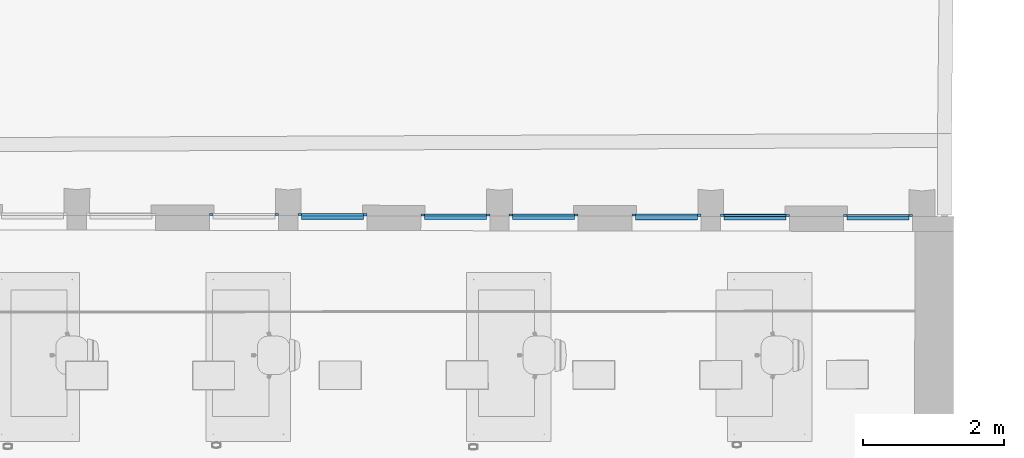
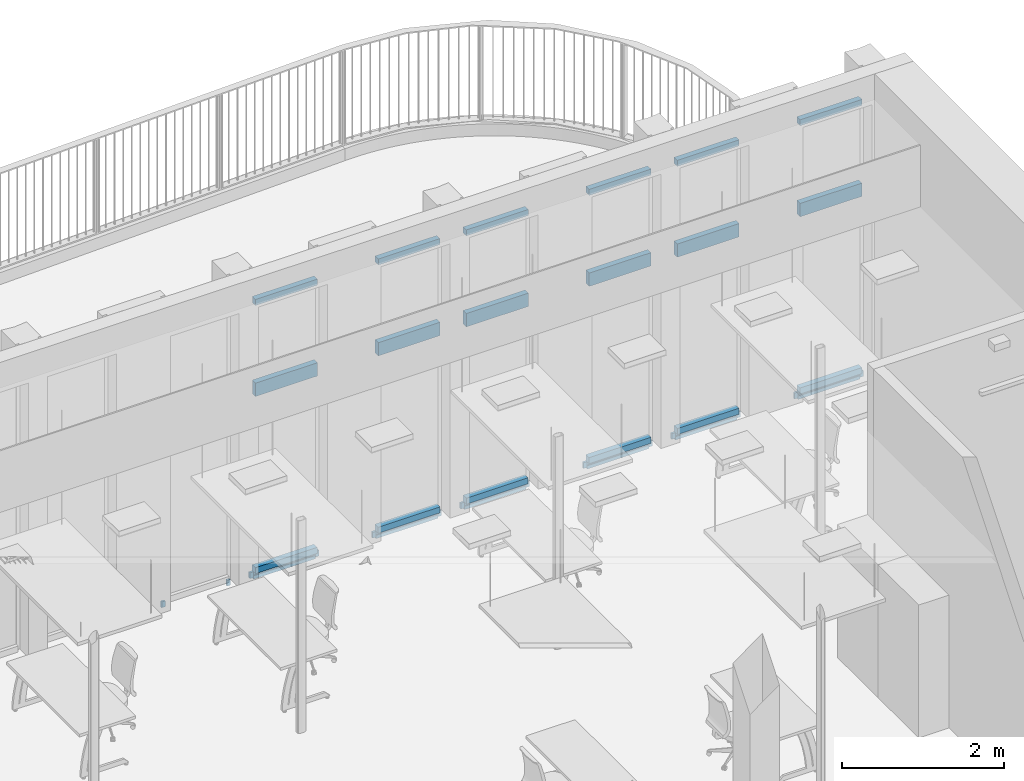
# One storey, part 20 of 128: 44 members, 13 elements without a shape of their own.
"""IFC2X3 building model written with IfcOpenShell, lengths in metres."""

from ifc_helpers import new_model, entity, si_unit, converted_unit, derived_unit, direction, frame, origin, origin_2d_with_axis, place, context, subcontext, project, spatial, rectangle, extrude, source, transform, mapped, material, type_object, type_shapes, element, aggregate, save


model = new_model("IFC2X3")

# Units and contexts
model_context = context("Model", 3, precision=1e-05, world=origin(), true_north=direction((6.123031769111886e-17, 1.0)))
body_context = subcontext(model_context, "Body", "Model", "MODEL_VIEW")
ifc_project = project(units=[si_unit("LENGTHUNIT", "METRE"), si_unit("AREAUNIT", "SQUARE_METRE"), converted_unit("PLANEANGLEUNIT", "DEGREE", entity("IfcPlaneAngleMeasure", 0.017453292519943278), si_unit("PLANEANGLEUNIT", "RADIAN"), dimensions=[0, 0, 0, 0, 0, 0, 0]), derived_unit("THERMALTRANSMITTANCEUNIT", [(si_unit("MASSUNIT", "GRAM", prefix="KILO"), 1), (si_unit("THERMODYNAMICTEMPERATUREUNIT", "KELVIN"), -1), (si_unit("TIMEUNIT", "SECOND"), -3)])], contexts=[model_context])

# Site, building, storey
site_placement = place(None, origin())
site = spatial("IfcSite", under=ifc_project, at=site_placement, Name="Default", CompositionType="ELEMENT")
building_placement = place(site_placement, origin())
building = spatial("IfcBuilding", under=site, at=building_placement, CompositionType="ELEMENT")
storey_placement = place(building_placement, origin())
storey = spatial("IfcBuildingStorey", under=building, at=storey_placement, Name="00_RDC CAF", CompositionType="ELEMENT", Elevation=2.4982504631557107e-13)

# Curtain wall, member
curtain_wall_type_1 = type_object("IfcCurtainWallType", Name="Mur-rideau:FRi.Ext.30mm RDC", PredefinedType="NOTDEFINED")
curtain_wall_1_placement = place(storey_placement, origin())
curtain_wall_1 = element("IfcCurtainWall", 1, at=curtain_wall_1_placement, inside=storey, type_object=curtain_wall_type_1, Name="Mur-rideau:FRi.Ext.30mm RDC", ObjectType="Mur-rideau:FRi.Ext.30mm RDC")
ifc_material = material(Name="ARC - M.Ex - Blanc")
member_type_1 = type_object("IfcMemberType", Name="Meneau rectangulaire:F.Ri.M_Ext_Rectangulaire_200x80mm", PredefinedType="MULLION", material=ifc_material)
shared_shape_1 = source(origin(), body_context, "Body", "SweptSolid", [
    extrude(rectangle(XDim=0.2, YDim=0.07999999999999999, at=origin_2d_with_axis()), frame((0.0, 0.025, -0.8799999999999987), z_axis=(0.0, 0.0, 1.0), x_axis=(-1.0, 0.0, 0.0)), (0.0, 0.0, 1.0), 0.8799999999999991),
])
type_shapes(member_type_1, [shared_shape_1])
member_1_placement = place(curtain_wall_1_placement, frame((40.815972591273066, 144.12998275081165, 2.7689999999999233), z_axis=(1.0, 0.0, 0.0), x_axis=(0.0, 0.0, 1.0)))
member_1 = element("IfcMember", 2, at=member_1_placement, type_object=member_type_1, material=ifc_material, Name="Meneau rectangulaire:F.Ri.M_Ext_Rectangulaire_200x80mm", ObjectType="Meneau rectangulaire:F.Ri.M_Ext_Rectangulaire_200x80mm", context=body_context, shape_type="MappedRepresentation", body=[
    mapped(shared_shape_1, transform((0.0, 0.0, 0.0), scale=1.0)),
])

curtain_wall_2_placement = place(storey_placement, origin())
curtain_wall_2 = element("IfcCurtainWall", 3, at=curtain_wall_2_placement, inside=storey, type_object=curtain_wall_type_1, Name="Mur-rideau:FRi.Ext.30mm RDC", ObjectType="Mur-rideau:FRi.Ext.30mm RDC")
member_2_placement = place(curtain_wall_2_placement, frame((42.56234455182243, 144.12723624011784, 2.7689999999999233), z_axis=(1.0, 0.0, 0.0), x_axis=(0.0, 0.0, 1.0)))
member_2 = element("IfcMember", 4, at=member_2_placement, type_object=member_type_1, material=ifc_material, Name="Meneau rectangulaire:F.Ri.M_Ext_Rectangulaire_200x80mm", ObjectType="Meneau rectangulaire:F.Ri.M_Ext_Rectangulaire_200x80mm", context=body_context, shape_type="MappedRepresentation", body=[
    mapped(shared_shape_1, transform((0.0, 0.0, 0.0), scale=1.0)),
])

curtain_wall_3_placement = place(storey_placement, origin())
curtain_wall_3 = element("IfcCurtainWall", 5, at=curtain_wall_3_placement, inside=storey, type_object=curtain_wall_type_1, Name="Mur-rideau:FRi.Ext.30mm RDC", ObjectType="Mur-rideau:FRi.Ext.30mm RDC")
member_3_placement = place(curtain_wall_3_placement, frame((43.815965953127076, 144.12526467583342, 2.7689999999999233), z_axis=(1.0, 0.0, 0.0), x_axis=(0.0, 0.0, 1.0)))
member_3 = element("IfcMember", 6, at=member_3_placement, type_object=member_type_1, material=ifc_material, Name="Meneau rectangulaire:F.Ri.M_Ext_Rectangulaire_200x80mm", ObjectType="Meneau rectangulaire:F.Ri.M_Ext_Rectangulaire_200x80mm", context=body_context, shape_type="MappedRepresentation", body=[
    mapped(shared_shape_1, transform((0.0, 0.0, 0.0), scale=1.0)),
])

curtain_wall_4_placement = place(storey_placement, origin())
curtain_wall_4 = element("IfcCurtainWall", 7, at=curtain_wall_4_placement, inside=storey, type_object=curtain_wall_type_1, Name="Mur-rideau:FRi.Ext.30mm RDC", ObjectType="Mur-rideau:FRi.Ext.30mm RDC")
member_4_placement = place(curtain_wall_4_placement, frame((45.56233791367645, 144.12251816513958, 2.7689999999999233), z_axis=(1.0, 0.0, 0.0), x_axis=(0.0, 0.0, 1.0)))
member_4 = element("IfcMember", 8, at=member_4_placement, type_object=member_type_1, material=ifc_material, Name="Meneau rectangulaire:F.Ri.M_Ext_Rectangulaire_200x80mm", ObjectType="Meneau rectangulaire:F.Ri.M_Ext_Rectangulaire_200x80mm", context=body_context, shape_type="MappedRepresentation", body=[
    mapped(shared_shape_1, transform((0.0, 0.0, 0.0), scale=1.0)),
])

curtain_wall_5_placement = place(storey_placement, origin())
curtain_wall_5 = element("IfcCurtainWall", 9, at=curtain_wall_5_placement, inside=storey, type_object=curtain_wall_type_1, Name="Mur-rideau:FRi.Ext.30mm RDC", ObjectType="Mur-rideau:FRi.Ext.30mm RDC")
member_5_placement = place(curtain_wall_5_placement, frame((46.81595931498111, 144.1205466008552, 2.7689999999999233), z_axis=(1.0, 0.0, 0.0), x_axis=(0.0, 0.0, 1.0)))
member_5 = element("IfcMember", 10, at=member_5_placement, type_object=member_type_1, material=ifc_material, Name="Meneau rectangulaire:F.Ri.M_Ext_Rectangulaire_200x80mm", ObjectType="Meneau rectangulaire:F.Ri.M_Ext_Rectangulaire_200x80mm", context=body_context, shape_type="MappedRepresentation", body=[
    mapped(shared_shape_1, transform((0.0, 0.0, 0.0), scale=1.0)),
])

curtain_wall_6_placement = place(storey_placement, origin())
curtain_wall_6 = element("IfcCurtainWall", 11, at=curtain_wall_6_placement, inside=storey, type_object=curtain_wall_type_1, Name="Mur-rideau:FRi.Ext.30mm RDC", ObjectType="Mur-rideau:FRi.Ext.30mm RDC")
member_6_placement = place(curtain_wall_6_placement, frame((48.562331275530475, 144.11780009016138, 2.7689999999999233), z_axis=(1.0, 0.0, 0.0), x_axis=(0.0, 0.0, 1.0)))
member_6 = element("IfcMember", 12, at=member_6_placement, type_object=member_type_1, material=ifc_material, Name="Meneau rectangulaire:F.Ri.M_Ext_Rectangulaire_200x80mm", ObjectType="Meneau rectangulaire:F.Ri.M_Ext_Rectangulaire_200x80mm", context=body_context, shape_type="MappedRepresentation", body=[
    mapped(shared_shape_1, transform((0.0, 0.0, 0.0), scale=1.0)),
])

# Member
member_type_2 = type_object("IfcMemberType", Name="Meneau rectangulaire:F.Ri.M_Ext_Rectangulaire_90x80mm", PredefinedType="MULLION", material=ifc_material)
shared_shape_2 = source(origin(), body_context, "Body", "SweptSolid", [
    extrude(rectangle(XDim=0.09, YDim=0.07999999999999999, at=origin_2d_with_axis()), frame((-0.045, 0.025, -0.8799999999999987), z_axis=(0.0, 0.0, 1.0), x_axis=(-1.0, 0.0, 0.0)), (0.0, 0.0, 1.0), 0.8799999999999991),
])
type_shapes(member_type_2, [shared_shape_2])
member_7_placement = place(curtain_wall_1_placement, frame((40.815972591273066, 144.12998275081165, 4.127999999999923), z_axis=(1.0, 0.0, 0.0), x_axis=(0.0, 0.0, 1.0)))
member_7 = element("IfcMember", 13, at=member_7_placement, type_object=member_type_2, material=ifc_material, Name="Meneau rectangulaire:F.Ri.M_Ext_Rectangulaire_90x80mm", ObjectType="Meneau rectangulaire:F.Ri.M_Ext_Rectangulaire_90x80mm", context=body_context, shape_type="MappedRepresentation", body=[
    mapped(shared_shape_2, transform((0.0, 0.0, 0.0), scale=1.0)),
])

member_8_placement = place(curtain_wall_2_placement, frame((42.56234455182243, 144.12723624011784, 4.127999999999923), z_axis=(1.0, 0.0, 0.0), x_axis=(0.0, 0.0, 1.0)))
member_8 = element("IfcMember", 14, at=member_8_placement, type_object=member_type_2, material=ifc_material, Name="Meneau rectangulaire:F.Ri.M_Ext_Rectangulaire_90x80mm", ObjectType="Meneau rectangulaire:F.Ri.M_Ext_Rectangulaire_90x80mm", context=body_context, shape_type="MappedRepresentation", body=[
    mapped(shared_shape_2, transform((0.0, 0.0, 0.0), scale=1.0)),
])

member_9_placement = place(curtain_wall_3_placement, frame((43.815965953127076, 144.12526467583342, 4.127999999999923), z_axis=(1.0, 0.0, 0.0), x_axis=(0.0, 0.0, 1.0)))
member_9 = element("IfcMember", 15, at=member_9_placement, type_object=member_type_2, material=ifc_material, Name="Meneau rectangulaire:F.Ri.M_Ext_Rectangulaire_90x80mm", ObjectType="Meneau rectangulaire:F.Ri.M_Ext_Rectangulaire_90x80mm", context=body_context, shape_type="MappedRepresentation", body=[
    mapped(shared_shape_2, transform((0.0, 0.0, 0.0), scale=1.0)),
])

member_10_placement = place(curtain_wall_4_placement, frame((45.56233791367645, 144.12251816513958, 4.127999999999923), z_axis=(1.0, 0.0, 0.0), x_axis=(0.0, 0.0, 1.0)))
member_10 = element("IfcMember", 16, at=member_10_placement, type_object=member_type_2, material=ifc_material, Name="Meneau rectangulaire:F.Ri.M_Ext_Rectangulaire_90x80mm", ObjectType="Meneau rectangulaire:F.Ri.M_Ext_Rectangulaire_90x80mm", context=body_context, shape_type="MappedRepresentation", body=[
    mapped(shared_shape_2, transform((0.0, 0.0, 0.0), scale=1.0)),
])

member_11_placement = place(curtain_wall_5_placement, frame((46.81595931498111, 144.1205466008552, 4.127999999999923), z_axis=(1.0, 0.0, 0.0), x_axis=(0.0, 0.0, 1.0)))
member_11 = element("IfcMember", 17, at=member_11_placement, type_object=member_type_2, material=ifc_material, Name="Meneau rectangulaire:F.Ri.M_Ext_Rectangulaire_90x80mm", ObjectType="Meneau rectangulaire:F.Ri.M_Ext_Rectangulaire_90x80mm", context=body_context, shape_type="MappedRepresentation", body=[
    mapped(shared_shape_2, transform((0.0, 0.0, 0.0), scale=1.0)),
])

member_12_placement = place(curtain_wall_6_placement, frame((48.562331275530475, 144.11780009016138, 4.127999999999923), z_axis=(1.0, 0.0, 0.0), x_axis=(0.0, 0.0, 1.0)))
member_12 = element("IfcMember", 18, at=member_12_placement, type_object=member_type_2, material=ifc_material, Name="Meneau rectangulaire:F.Ri.M_Ext_Rectangulaire_90x80mm", ObjectType="Meneau rectangulaire:F.Ri.M_Ext_Rectangulaire_90x80mm", context=body_context, shape_type="MappedRepresentation", body=[
    mapped(shared_shape_2, transform((0.0, 0.0, 0.0), scale=1.0)),
])

member_type_3 = type_object("IfcMemberType", Name="Meneau rectangulaire:F.Ri.M_Ext_Rectangulaire_90x80mm", PredefinedType="MULLION", material=ifc_material)
shared_shape_3 = source(origin(), body_context, "Body", "SweptSolid", [
    extrude(rectangle(XDim=0.09, YDim=0.07999999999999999, at=origin_2d_with_axis()), frame((-0.045, 0.025, -0.8799999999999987), z_axis=(0.0, 0.0, 1.0), x_axis=(-1.0, 0.0, 0.0)), (0.0, 0.0, 1.0), 0.8799999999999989),
])
type_shapes(member_type_3, [shared_shape_3])
member_13_placement = place(curtain_wall_1_placement, frame((39.93597367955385, 144.13136672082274, 0.0), z_axis=(-1.0, 0.0, 0.0), x_axis=(0.0, 0.0, -1.0)))
member_13 = element("IfcMember", 19, at=member_13_placement, type_object=member_type_3, material=ifc_material, Name="Meneau rectangulaire:F.Ri.M_Ext_Rectangulaire_90x80mm", ObjectType="Meneau rectangulaire:F.Ri.M_Ext_Rectangulaire_90x80mm", context=body_context, shape_type="MappedRepresentation", body=[
    mapped(shared_shape_3, transform((0.0, 0.0, 0.0), scale=1.0)),
])

aggregate(curtain_wall_1, [member_1, member_7, member_13])

member_14_placement = place(curtain_wall_2_placement, frame((41.682345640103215, 144.12862021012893, 0.0), z_axis=(-1.0, 0.0, 0.0), x_axis=(0.0, 0.0, -1.0)))
member_14 = element("IfcMember", 20, at=member_14_placement, type_object=member_type_3, material=ifc_material, Name="Meneau rectangulaire:F.Ri.M_Ext_Rectangulaire_90x80mm", ObjectType="Meneau rectangulaire:F.Ri.M_Ext_Rectangulaire_90x80mm", context=body_context, shape_type="MappedRepresentation", body=[
    mapped(shared_shape_3, transform((0.0, 0.0, 0.0), scale=1.0)),
])

aggregate(curtain_wall_2, [member_2, member_8, member_14])

member_15_placement = place(curtain_wall_3_placement, frame((42.935967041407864, 144.12664864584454, 0.0), z_axis=(-1.0, 0.0, 0.0), x_axis=(0.0, 0.0, -1.0)))
member_15 = element("IfcMember", 21, at=member_15_placement, type_object=member_type_3, material=ifc_material, Name="Meneau rectangulaire:F.Ri.M_Ext_Rectangulaire_90x80mm", ObjectType="Meneau rectangulaire:F.Ri.M_Ext_Rectangulaire_90x80mm", context=body_context, shape_type="MappedRepresentation", body=[
    mapped(shared_shape_3, transform((0.0, 0.0, 0.0), scale=1.0)),
])

aggregate(curtain_wall_3, [member_3, member_9, member_15])

member_16_placement = place(curtain_wall_4_placement, frame((44.68233900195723, 144.1239021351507, 0.0), z_axis=(-1.0, 0.0, 0.0), x_axis=(0.0, 0.0, -1.0)))
member_16 = element("IfcMember", 22, at=member_16_placement, type_object=member_type_3, material=ifc_material, Name="Meneau rectangulaire:F.Ri.M_Ext_Rectangulaire_90x80mm", ObjectType="Meneau rectangulaire:F.Ri.M_Ext_Rectangulaire_90x80mm", context=body_context, shape_type="MappedRepresentation", body=[
    mapped(shared_shape_3, transform((0.0, 0.0, 0.0), scale=1.0)),
])

aggregate(curtain_wall_4, [member_4, member_10, member_16])

member_17_placement = place(curtain_wall_5_placement, frame((45.935960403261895, 144.12193057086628, 0.0), z_axis=(-1.0, 0.0, 0.0), x_axis=(0.0, 0.0, -1.0)))
member_17 = element("IfcMember", 23, at=member_17_placement, type_object=member_type_3, material=ifc_material, Name="Meneau rectangulaire:F.Ri.M_Ext_Rectangulaire_90x80mm", ObjectType="Meneau rectangulaire:F.Ri.M_Ext_Rectangulaire_90x80mm", context=body_context, shape_type="MappedRepresentation", body=[
    mapped(shared_shape_3, transform((0.0, 0.0, 0.0), scale=1.0)),
])

aggregate(curtain_wall_5, [member_5, member_11, member_17])

member_18_placement = place(curtain_wall_6_placement, frame((47.682332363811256, 144.11918406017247, 0.0), z_axis=(-1.0, 0.0, 0.0), x_axis=(0.0, 0.0, -1.0)))
member_18 = element("IfcMember", 24, at=member_18_placement, type_object=member_type_3, material=ifc_material, Name="Meneau rectangulaire:F.Ri.M_Ext_Rectangulaire_90x80mm", ObjectType="Meneau rectangulaire:F.Ri.M_Ext_Rectangulaire_90x80mm", context=body_context, shape_type="MappedRepresentation", body=[
    mapped(shared_shape_3, transform((0.0, 0.0, 0.0), scale=1.0)),
])

aggregate(curtain_wall_6, [member_6, member_12, member_18])

# Curtain wall, member
curtain_wall_type_2 = type_object("IfcCurtainWallType", Name="Mur-rideau:FRi.Ext.30mm Etages", PredefinedType="NOTDEFINED")
curtain_wall_7_placement = place(storey_placement, origin())
curtain_wall_7 = element("IfcCurtainWall", 25, at=curtain_wall_7_placement, inside=storey, type_object=curtain_wall_type_2, Name="Mur-rideau:FRi.Ext.30mm Etages", ObjectType="Mur-rideau:FRi.Ext.30mm Etages")
member_type_4 = type_object("IfcMemberType", Name="Meneau rectangulaire:F.Ri.M_Ext_Rectangulaire_50x30mm", PredefinedType="MULLION", material=ifc_material)
shared_shape_4 = source(origin(), body_context, "Body", "SweptSolid", [
    extrude(rectangle(XDim=0.05, YDim=0.029999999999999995, at=origin_2d_with_axis()), frame((0.0, 0.0, -0.8800000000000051), z_axis=(0.0, 0.0, 1.0), x_axis=(-1.0, 0.0, 0.0)), (0.0, 0.0, 1.0), 0.8800000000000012),
])
type_shapes(member_type_4, [shared_shape_4])
member_19_placement = place(curtain_wall_7_placement, frame((40.81597259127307, 144.12998275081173, -0.087000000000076), z_axis=(1.0, 0.0, 0.0), x_axis=(0.0, 0.0, 1.0)))
member_19 = element("IfcMember", 26, at=member_19_placement, type_object=member_type_4, material=ifc_material, Name="Meneau rectangulaire:F.Ri.M_Ext_Rectangulaire_50x30mm", ObjectType="Meneau rectangulaire:F.Ri.M_Ext_Rectangulaire_50x30mm", context=body_context, shape_type="MappedRepresentation", body=[
    mapped(shared_shape_4, transform((0.0, 0.0, 0.0), scale=1.0)),
])

curtain_wall_8_placement = place(storey_placement, origin())
curtain_wall_8 = element("IfcCurtainWall", 27, at=curtain_wall_8_placement, inside=storey, type_object=curtain_wall_type_2, Name="Mur-rideau:FRi.Ext.30mm Etages", ObjectType="Mur-rideau:FRi.Ext.30mm Etages")
member_20_placement = place(curtain_wall_8_placement, frame((43.8159659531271, 144.12526467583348, -0.087000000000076), z_axis=(1.0, 0.0, 0.0), x_axis=(0.0, 0.0, 1.0)))
member_20 = element("IfcMember", 28, at=member_20_placement, type_object=member_type_4, material=ifc_material, Name="Meneau rectangulaire:F.Ri.M_Ext_Rectangulaire_50x30mm", ObjectType="Meneau rectangulaire:F.Ri.M_Ext_Rectangulaire_50x30mm", context=body_context, shape_type="MappedRepresentation", body=[
    mapped(shared_shape_4, transform((0.0, 0.0, 0.0), scale=1.0)),
])

curtain_wall_9_placement = place(storey_placement, origin())
curtain_wall_9 = element("IfcCurtainWall", 29, at=curtain_wall_9_placement, inside=storey, type_object=curtain_wall_type_2, Name="Mur-rideau:FRi.Ext.30mm Etages", ObjectType="Mur-rideau:FRi.Ext.30mm Etages")
member_21_placement = place(curtain_wall_9_placement, frame((46.81595931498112, 144.12054660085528, -0.087000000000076), z_axis=(1.0, 0.0, 0.0), x_axis=(0.0, 0.0, 1.0)))
member_21 = element("IfcMember", 30, at=member_21_placement, type_object=member_type_4, material=ifc_material, Name="Meneau rectangulaire:F.Ri.M_Ext_Rectangulaire_50x30mm", ObjectType="Meneau rectangulaire:F.Ri.M_Ext_Rectangulaire_50x30mm", context=body_context, shape_type="MappedRepresentation", body=[
    mapped(shared_shape_4, transform((0.0, 0.0, 0.0), scale=1.0)),
])

# Member
member_type_5 = type_object("IfcMemberType", Name="Meneau rectangulaire:F.Ri.M_Ext_Rectangulaire_50x30mm", PredefinedType="MULLION", material=ifc_material)
shared_shape_5 = source(origin(), body_context, "Body", "SweptSolid", [
    extrude(rectangle(XDim=0.05, YDim=0.03, at=origin_2d_with_axis()), frame((-0.025, 0.0, -0.8800000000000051), z_axis=(0.0, 0.0, 1.0), x_axis=(-1.0, 0.0, 0.0)), (0.0, 0.0, 1.0), 0.8800000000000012),
])
type_shapes(member_type_5, [shared_shape_5])
member_22_placement = place(curtain_wall_7_placement, frame((40.81597259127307, 144.12998275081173, 0.0), z_axis=(1.0, 0.0, 0.0), x_axis=(0.0, 0.0, 1.0)))
member_22 = element("IfcMember", 31, at=member_22_placement, type_object=member_type_5, material=ifc_material, Name="Meneau rectangulaire:F.Ri.M_Ext_Rectangulaire_50x30mm", ObjectType="Meneau rectangulaire:F.Ri.M_Ext_Rectangulaire_50x30mm", context=body_context, shape_type="MappedRepresentation", body=[
    mapped(shared_shape_5, transform((0.0, 0.0, 0.0), scale=1.0)),
])

member_23_placement = place(curtain_wall_8_placement, frame((43.8159659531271, 144.12526467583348, 0.0), z_axis=(1.0, 0.0, 0.0), x_axis=(0.0, 0.0, 1.0)))
member_23 = element("IfcMember", 32, at=member_23_placement, type_object=member_type_5, material=ifc_material, Name="Meneau rectangulaire:F.Ri.M_Ext_Rectangulaire_50x30mm", ObjectType="Meneau rectangulaire:F.Ri.M_Ext_Rectangulaire_50x30mm", context=body_context, shape_type="MappedRepresentation", body=[
    mapped(shared_shape_5, transform((0.0, 0.0, 0.0), scale=1.0)),
])

member_24_placement = place(curtain_wall_9_placement, frame((46.81595931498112, 144.12054660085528, 0.0), z_axis=(1.0, 0.0, 0.0), x_axis=(0.0, 0.0, 1.0)))
member_24 = element("IfcMember", 33, at=member_24_placement, type_object=member_type_5, material=ifc_material, Name="Meneau rectangulaire:F.Ri.M_Ext_Rectangulaire_50x30mm", ObjectType="Meneau rectangulaire:F.Ri.M_Ext_Rectangulaire_50x30mm", context=body_context, shape_type="MappedRepresentation", body=[
    mapped(shared_shape_5, transform((0.0, 0.0, 0.0), scale=1.0)),
])

member_type_6 = type_object("IfcMemberType", Name="Meneau rectangulaire:F.Ri.M_Ext_Rectangulaire_50x30mm", PredefinedType="MULLION", material=ifc_material)
shared_shape_6 = source(origin(), body_context, "Body", "SweptSolid", [
    extrude(rectangle(XDim=0.05, YDim=0.03, at=origin_2d_with_axis()), frame((-0.025, 0.0, -0.08700000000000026), z_axis=(0.0, 0.0, 1.0), x_axis=(-1.0, 0.0, 0.0)), (0.0, 0.0, 1.0), 0.08700000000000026),
])
type_shapes(member_type_6, [shared_shape_6])
member_25_placement = place(curtain_wall_7_placement, frame((40.86597252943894, 144.129904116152, -0.087000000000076), z_axis=(0.0, 0.0, -1.0), x_axis=(1.0, 0.0, 0.0)))
member_25 = element("IfcMember", 34, at=member_25_placement, type_object=member_type_6, material=ifc_material, Name="Meneau rectangulaire:F.Ri.M_Ext_Rectangulaire_50x30mm", ObjectType="Meneau rectangulaire:F.Ri.M_Ext_Rectangulaire_50x30mm", context=body_context, shape_type="MappedRepresentation", body=[
    mapped(shared_shape_6, transform((0.0, 0.0, 0.0), scale=1.0)),
])

member_26_placement = place(curtain_wall_8_placement, frame((43.865965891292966, 144.12518604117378, -0.087000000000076), z_axis=(0.0, 0.0, -1.0), x_axis=(1.0, 0.0, 0.0)))
member_26 = element("IfcMember", 35, at=member_26_placement, type_object=member_type_6, material=ifc_material, Name="Meneau rectangulaire:F.Ri.M_Ext_Rectangulaire_50x30mm", ObjectType="Meneau rectangulaire:F.Ri.M_Ext_Rectangulaire_50x30mm", context=body_context, shape_type="MappedRepresentation", body=[
    mapped(shared_shape_6, transform((0.0, 0.0, 0.0), scale=1.0)),
])

member_27_placement = place(curtain_wall_9_placement, frame((46.86595925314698, 144.12046796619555, -0.087000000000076), z_axis=(0.0, 0.0, -1.0), x_axis=(1.0, 0.0, 0.0)))
member_27 = element("IfcMember", 36, at=member_27_placement, type_object=member_type_6, material=ifc_material, Name="Meneau rectangulaire:F.Ri.M_Ext_Rectangulaire_50x30mm", ObjectType="Meneau rectangulaire:F.Ri.M_Ext_Rectangulaire_50x30mm", context=body_context, shape_type="MappedRepresentation", body=[
    mapped(shared_shape_6, transform((0.0, 0.0, 0.0), scale=1.0)),
])

member_type_7 = type_object("IfcMemberType", Name="Meneau rectangulaire:F.Ri.M_Ext_Rectangulaire_50x30mm", PredefinedType="MULLION", material=ifc_material)
shared_shape_7 = source(origin(), body_context, "Body", "SweptSolid", [
    extrude(rectangle(XDim=0.05, YDim=0.03, at=origin_2d_with_axis()), frame((-0.025, 0.0, -0.08700000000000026), z_axis=(0.0, 0.0, 1.0), x_axis=(-1.0, 0.0, 0.0)), (0.0, 0.0, 1.0), 0.08700000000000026),
])
type_shapes(member_type_7, [shared_shape_7])
member_28_placement = place(curtain_wall_7_placement, frame((39.88597374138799, 144.13144535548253, 0.0), z_axis=(0.0, 0.0, 1.0), x_axis=(-1.0, 0.0, 0.0)))
member_28 = element("IfcMember", 37, at=member_28_placement, type_object=member_type_7, material=ifc_material, Name="Meneau rectangulaire:F.Ri.M_Ext_Rectangulaire_50x30mm", ObjectType="Meneau rectangulaire:F.Ri.M_Ext_Rectangulaire_50x30mm", context=body_context, shape_type="MappedRepresentation", body=[
    mapped(shared_shape_7, transform((0.0, 0.0, 0.0), scale=1.0)),
])

aggregate(curtain_wall_7, [member_19, member_22, member_25, member_28])

member_29_placement = place(curtain_wall_8_placement, frame((42.88596710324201, 144.1267272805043, 0.0), z_axis=(0.0, 0.0, 1.0), x_axis=(-1.0, 0.0, 0.0)))
member_29 = element("IfcMember", 38, at=member_29_placement, type_object=member_type_7, material=ifc_material, Name="Meneau rectangulaire:F.Ri.M_Ext_Rectangulaire_50x30mm", ObjectType="Meneau rectangulaire:F.Ri.M_Ext_Rectangulaire_50x30mm", context=body_context, shape_type="MappedRepresentation", body=[
    mapped(shared_shape_7, transform((0.0, 0.0, 0.0), scale=1.0)),
])

aggregate(curtain_wall_8, [member_20, member_23, member_26, member_29])

member_30_placement = place(curtain_wall_9_placement, frame((45.88596046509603, 144.12200920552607, 0.0), z_axis=(0.0, 0.0, 1.0), x_axis=(-1.0, 0.0, 0.0)))
member_30 = element("IfcMember", 39, at=member_30_placement, type_object=member_type_7, material=ifc_material, Name="Meneau rectangulaire:F.Ri.M_Ext_Rectangulaire_50x30mm", ObjectType="Meneau rectangulaire:F.Ri.M_Ext_Rectangulaire_50x30mm", context=body_context, shape_type="MappedRepresentation", body=[
    mapped(shared_shape_7, transform((0.0, 0.0, 0.0), scale=1.0)),
])

aggregate(curtain_wall_9, [member_21, member_24, member_27, member_30])

# Curtain wall, member
curtain_wall_10_placement = place(storey_placement, origin())
curtain_wall_10 = element("IfcCurtainWall", 40, at=curtain_wall_10_placement, inside=storey, type_object=curtain_wall_type_2, Name="Mur-rideau:FRi.Ext.30mm Etages", ObjectType="Mur-rideau:FRi.Ext.30mm Etages")
member_type_8 = type_object("IfcMemberType", Name="Meneau rectangulaire:F.Ri.M_Ext_Rectangulaire_50x30mm", PredefinedType="MULLION", material=ifc_material)
shared_shape_8 = source(origin(), body_context, "Body", "SweptSolid", [
    extrude(rectangle(XDim=0.05, YDim=0.03, at=origin_2d_with_axis()), frame((0.0, 0.0, -0.8800000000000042), z_axis=(0.0, 0.0, 1.0), x_axis=(-1.0, 0.0, 0.0)), (0.0, 0.0, 1.0), 0.8800000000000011),
])
type_shapes(member_type_8, [shared_shape_8])
member_31_placement = place(curtain_wall_10_placement, frame((41.682319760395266, 144.12862025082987, -0.087000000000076), z_axis=(-1.0, 0.0, 0.0), x_axis=(0.0, 0.0, 1.0)))
member_31 = element("IfcMember", 41, at=member_31_placement, type_object=member_type_8, material=ifc_material, Name="Meneau rectangulaire:F.Ri.M_Ext_Rectangulaire_50x30mm", ObjectType="Meneau rectangulaire:F.Ri.M_Ext_Rectangulaire_50x30mm", context=body_context, shape_type="MappedRepresentation", body=[
    mapped(shared_shape_8, transform((0.0, 0.0, 0.0), scale=1.0)),
])

curtain_wall_11_placement = place(storey_placement, origin())
curtain_wall_11 = element("IfcCurtainWall", 42, at=curtain_wall_11_placement, inside=storey, type_object=curtain_wall_type_2, Name="Mur-rideau:FRi.Ext.30mm Etages", ObjectType="Mur-rideau:FRi.Ext.30mm Etages")
member_32_placement = place(curtain_wall_11_placement, frame((44.68231312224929, 144.12390217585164, -0.087000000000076), z_axis=(-1.0, 0.0, 0.0), x_axis=(0.0, 0.0, 1.0)))
member_32 = element("IfcMember", 43, at=member_32_placement, type_object=member_type_8, material=ifc_material, Name="Meneau rectangulaire:F.Ri.M_Ext_Rectangulaire_50x30mm", ObjectType="Meneau rectangulaire:F.Ri.M_Ext_Rectangulaire_50x30mm", context=body_context, shape_type="MappedRepresentation", body=[
    mapped(shared_shape_8, transform((0.0, 0.0, 0.0), scale=1.0)),
])

curtain_wall_12_placement = place(storey_placement, origin())
curtain_wall_12 = element("IfcCurtainWall", 44, at=curtain_wall_12_placement, inside=storey, type_object=curtain_wall_type_2, Name="Mur-rideau:FRi.Ext.30mm Etages", ObjectType="Mur-rideau:FRi.Ext.30mm Etages")
member_33_placement = place(curtain_wall_12_placement, frame((47.682306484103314, 144.1191841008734, -0.087000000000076), z_axis=(-1.0, 0.0, 0.0), x_axis=(0.0, 0.0, 1.0)))
member_33 = element("IfcMember", 45, at=member_33_placement, type_object=member_type_8, material=ifc_material, Name="Meneau rectangulaire:F.Ri.M_Ext_Rectangulaire_50x30mm", ObjectType="Meneau rectangulaire:F.Ri.M_Ext_Rectangulaire_50x30mm", context=body_context, shape_type="MappedRepresentation", body=[
    mapped(shared_shape_8, transform((0.0, 0.0, 0.0), scale=1.0)),
])

# Member
member_type_9 = type_object("IfcMemberType", Name="Meneau rectangulaire:F.Ri.M_Ext_Rectangulaire_50x30mm", PredefinedType="MULLION", material=ifc_material)
shared_shape_9 = source(origin(), body_context, "Body", "SweptSolid", [
    extrude(rectangle(XDim=0.05, YDim=0.03, at=origin_2d_with_axis()), frame((-0.025, 0.0, -0.8800000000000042), z_axis=(0.0, 0.0, 1.0), x_axis=(-1.0, 0.0, 0.0)), (0.0, 0.0, 1.0), 0.8800000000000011),
])
type_shapes(member_type_9, [shared_shape_9])
member_34_placement = place(curtain_wall_10_placement, frame((41.682319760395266, 144.12862025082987, 0.0), z_axis=(-1.0, 0.0, 0.0), x_axis=(0.0, 0.0, 1.0)))
member_34 = element("IfcMember", 46, at=member_34_placement, type_object=member_type_9, material=ifc_material, Name="Meneau rectangulaire:F.Ri.M_Ext_Rectangulaire_50x30mm", ObjectType="Meneau rectangulaire:F.Ri.M_Ext_Rectangulaire_50x30mm", context=body_context, shape_type="MappedRepresentation", body=[
    mapped(shared_shape_9, transform((0.0, 0.0, 0.0), scale=1.0)),
])

member_35_placement = place(curtain_wall_11_placement, frame((44.68231312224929, 144.12390217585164, 0.0), z_axis=(-1.0, 0.0, 0.0), x_axis=(0.0, 0.0, 1.0)))
member_35 = element("IfcMember", 47, at=member_35_placement, type_object=member_type_9, material=ifc_material, Name="Meneau rectangulaire:F.Ri.M_Ext_Rectangulaire_50x30mm", ObjectType="Meneau rectangulaire:F.Ri.M_Ext_Rectangulaire_50x30mm", context=body_context, shape_type="MappedRepresentation", body=[
    mapped(shared_shape_9, transform((0.0, 0.0, 0.0), scale=1.0)),
])

member_36_placement = place(curtain_wall_12_placement, frame((47.682306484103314, 144.1191841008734, 0.0), z_axis=(-1.0, 0.0, 0.0), x_axis=(0.0, 0.0, 1.0)))
member_36 = element("IfcMember", 48, at=member_36_placement, type_object=member_type_9, material=ifc_material, Name="Meneau rectangulaire:F.Ri.M_Ext_Rectangulaire_50x30mm", ObjectType="Meneau rectangulaire:F.Ri.M_Ext_Rectangulaire_50x30mm", context=body_context, shape_type="MappedRepresentation", body=[
    mapped(shared_shape_9, transform((0.0, 0.0, 0.0), scale=1.0)),
])

# Curtain wall, member
curtain_wall_13_placement = place(storey_placement, origin())
curtain_wall_13 = element("IfcCurtainWall", 49, at=curtain_wall_13_placement, inside=storey, type_object=curtain_wall_type_2, Name="Mur-rideau:FRi.Ext.30mm Etages", ObjectType="Mur-rideau:FRi.Ext.30mm Etages")
member_type_10 = type_object("IfcMemberType", Name="Meneau rectangulaire:F.Ri.M_Ext_Rectangulaire_50x30mm", PredefinedType="MULLION", material=ifc_material)
shared_shape_10 = source(origin(), body_context, "Body", "SweptSolid", [
    extrude(rectangle(XDim=0.05, YDim=0.03, at=origin_2d_with_axis()), frame((-0.025, 0.0, -0.08700000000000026), z_axis=(0.0, 0.0, 1.0), x_axis=(-1.0, 0.0, 0.0)), (0.0, 0.0, 1.0), 0.08700000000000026),
])
type_shapes(member_type_10, [shared_shape_10])
member_37_placement = place(curtain_wall_13_placement, frame((38.6323264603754, 144.13341696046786, -0.087000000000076), z_axis=(0.0, 0.0, -1.0), x_axis=(-1.0, 0.0, 0.0)))
member_37 = element("IfcMember", 50, at=member_37_placement, type_object=member_type_10, material=ifc_material, Name="Meneau rectangulaire:F.Ri.M_Ext_Rectangulaire_50x30mm", ObjectType="Meneau rectangulaire:F.Ri.M_Ext_Rectangulaire_50x30mm", context=body_context, shape_type="MappedRepresentation", body=[
    mapped(shared_shape_10, transform((0.0, 0.0, 0.0), scale=1.0)),
])

# Member
member_38_placement = place(curtain_wall_10_placement, frame((41.632319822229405, 144.1286988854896, -0.087000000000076), z_axis=(0.0, 0.0, -1.0), x_axis=(-1.0, 0.0, 0.0)))
member_38 = element("IfcMember", 51, at=member_38_placement, type_object=member_type_10, material=ifc_material, Name="Meneau rectangulaire:F.Ri.M_Ext_Rectangulaire_50x30mm", ObjectType="Meneau rectangulaire:F.Ri.M_Ext_Rectangulaire_50x30mm", context=body_context, shape_type="MappedRepresentation", body=[
    mapped(shared_shape_10, transform((0.0, 0.0, 0.0), scale=1.0)),
])

member_39_placement = place(curtain_wall_11_placement, frame((44.63231318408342, 144.12398081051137, -0.087000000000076), z_axis=(0.0, 0.0, -1.0), x_axis=(-1.0, 0.0, 0.0)))
member_39 = element("IfcMember", 52, at=member_39_placement, type_object=member_type_10, material=ifc_material, Name="Meneau rectangulaire:F.Ri.M_Ext_Rectangulaire_50x30mm", ObjectType="Meneau rectangulaire:F.Ri.M_Ext_Rectangulaire_50x30mm", context=body_context, shape_type="MappedRepresentation", body=[
    mapped(shared_shape_10, transform((0.0, 0.0, 0.0), scale=1.0)),
])

member_40_placement = place(curtain_wall_12_placement, frame((47.632306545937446, 144.11926273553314, -0.087000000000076), z_axis=(0.0, 0.0, -1.0), x_axis=(-1.0, 0.0, 0.0)))
member_40 = element("IfcMember", 53, at=member_40_placement, type_object=member_type_10, material=ifc_material, Name="Meneau rectangulaire:F.Ri.M_Ext_Rectangulaire_50x30mm", ObjectType="Meneau rectangulaire:F.Ri.M_Ext_Rectangulaire_50x30mm", context=body_context, shape_type="MappedRepresentation", body=[
    mapped(shared_shape_10, transform((0.0, 0.0, 0.0), scale=1.0)),
])

member_type_11 = type_object("IfcMemberType", Name="Meneau rectangulaire:F.Ri.M_Ext_Rectangulaire_50x30mm", PredefinedType="MULLION", material=ifc_material)
shared_shape_11 = source(origin(), body_context, "Body", "SweptSolid", [
    extrude(rectangle(XDim=0.05, YDim=0.03, at=origin_2d_with_axis()), frame((-0.025, 0.0, -0.08700000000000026), z_axis=(0.0, 0.0, 1.0), x_axis=(-1.0, 0.0, 0.0)), (0.0, 0.0, 1.0), 0.08700000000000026),
])
type_shapes(member_type_11, [shared_shape_11])
member_41_placement = place(curtain_wall_13_placement, frame((39.61232524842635, 144.13187572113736, 0.0)))
member_41 = element("IfcMember", 54, at=member_41_placement, type_object=member_type_11, material=ifc_material, Name="Meneau rectangulaire:F.Ri.M_Ext_Rectangulaire_50x30mm", ObjectType="Meneau rectangulaire:F.Ri.M_Ext_Rectangulaire_50x30mm", context=body_context, shape_type="MappedRepresentation", body=[
    mapped(shared_shape_11, transform((0.0, 0.0, 0.0), scale=1.0)),
])

aggregate(curtain_wall_13, [member_37, member_41])

member_42_placement = place(curtain_wall_10_placement, frame((42.612318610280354, 144.12715764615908, 0.0)))
member_42 = element("IfcMember", 55, at=member_42_placement, type_object=member_type_11, material=ifc_material, Name="Meneau rectangulaire:F.Ri.M_Ext_Rectangulaire_50x30mm", ObjectType="Meneau rectangulaire:F.Ri.M_Ext_Rectangulaire_50x30mm", context=body_context, shape_type="MappedRepresentation", body=[
    mapped(shared_shape_11, transform((0.0, 0.0, 0.0), scale=1.0)),
])

aggregate(curtain_wall_10, [member_31, member_34, member_38, member_42])

member_43_placement = place(curtain_wall_11_placement, frame((45.61231197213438, 144.12243957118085, 0.0)))
member_43 = element("IfcMember", 56, at=member_43_placement, type_object=member_type_11, material=ifc_material, Name="Meneau rectangulaire:F.Ri.M_Ext_Rectangulaire_50x30mm", ObjectType="Meneau rectangulaire:F.Ri.M_Ext_Rectangulaire_50x30mm", context=body_context, shape_type="MappedRepresentation", body=[
    mapped(shared_shape_11, transform((0.0, 0.0, 0.0), scale=1.0)),
])

aggregate(curtain_wall_11, [member_32, member_35, member_39, member_43])

member_44_placement = place(curtain_wall_12_placement, frame((48.612305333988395, 144.11772149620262, 0.0)))
member_44 = element("IfcMember", 57, at=member_44_placement, type_object=member_type_11, material=ifc_material, Name="Meneau rectangulaire:F.Ri.M_Ext_Rectangulaire_50x30mm", ObjectType="Meneau rectangulaire:F.Ri.M_Ext_Rectangulaire_50x30mm", context=body_context, shape_type="MappedRepresentation", body=[
    mapped(shared_shape_11, transform((0.0, 0.0, 0.0), scale=1.0)),
])

aggregate(curtain_wall_12, [member_33, member_36, member_40, member_44])

save(model, "model.ifc")
